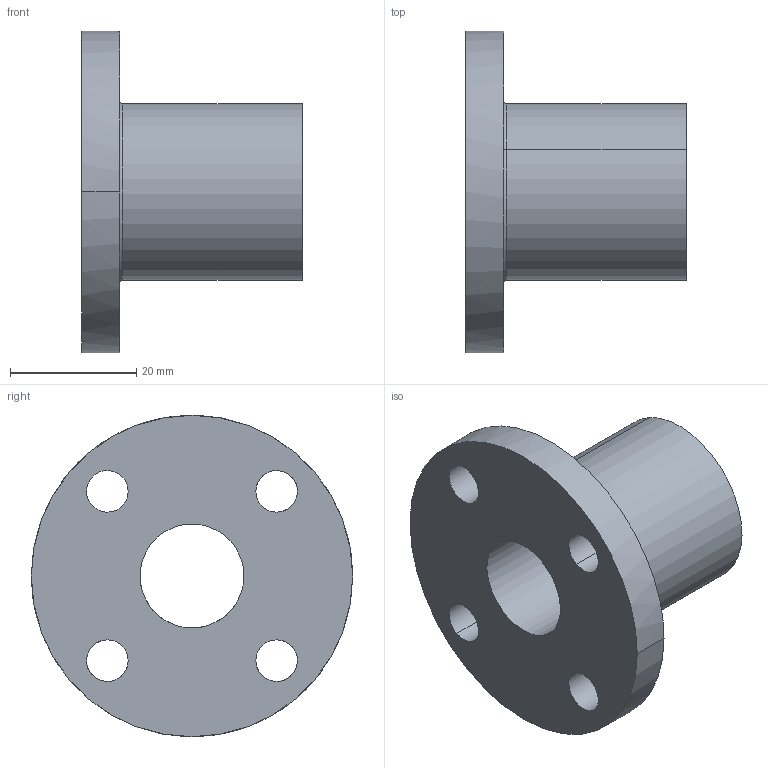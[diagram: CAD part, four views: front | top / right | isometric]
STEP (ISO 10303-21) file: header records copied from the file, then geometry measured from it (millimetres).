
FILE_DESCRIPTION(('CATIA V5 STEP Exchange'),'2;1');
FILE_NAME('C:\Users\aa\Documents\이댈\TM\TTM\TTM16.stp','2020-03-24T02:22:01+00:00',('none'),('none'),'CATIA Version 5 Release 20 SP 7 (IN-10)','CATIA V5 STEP AP203','none');
FILE_SCHEMA(('CONFIG_CONTROL_DESIGN'));
Length unit declared in the file: millimetre
Products named in the file (1): TTM16
Bounding box: 35 x 51 x 51 mm (x, y, z)
Volume: 21813.5 mm3; surface area: 9189.7 mm2
Topology: 1 solids, 1 shells, 19 faces, 46 edges, 30 vertices
Faces by surface type: cylinder 14, plane 3, torus 2
Entity records: 792 total; most frequent: CARTESIAN_POINT 304, ORIENTED_EDGE 92, DIRECTION 73, EDGE_CURVE 46, AXIS2_PLACEMENT_3D 41, EDGE_LOOP 30, VERTEX_POINT 30, CIRCLE 21
